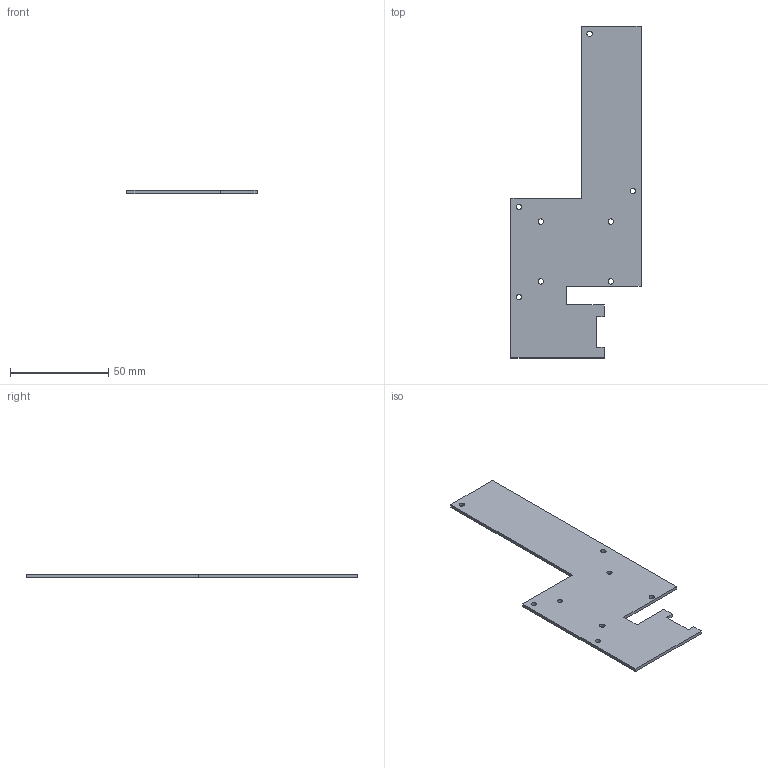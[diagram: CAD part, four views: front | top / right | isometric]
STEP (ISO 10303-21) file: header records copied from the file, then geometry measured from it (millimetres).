
FILE_DESCRIPTION(('Open CASCADE Model'),'2;1');
FILE_NAME('Open CASCADE Shape Model','2026-09-22T07:23:23',('Author'),( 'Open CASCADE'),'Open CASCADE STEP processor 7.9','Open CASCADE 7.9' ,'Unknown');
FILE_SCHEMA(('AUTOMOTIVE_DESIGN { 1 0 10303 214 1 1 1 1 }'));
Length unit declared in the file: millimetre
Products named in the file (1): Open CASCADE STEP translator 7.9 3
Bounding box: 66.2 x 169 x 1.6 mm (x, y, z)
Volume: 11285.3 mm3; surface area: 15042.4 mm2
Topology: 1 solids, 1 shells, 24 faces, 66 edges, 44 vertices
Faces by surface type: plane 16, cylinder 8
Full cylindrical faces by diameter (mm): 2.7 x8
Entity records: 1690 total; most frequent: CARTESIAN_POINT 315, DIRECTION 256, LINE 166, VECTOR 166, ORIENTED_EDGE 132, PCURVE 132, DEFINITIONAL_REPRESENTATION 132, EDGE_CURVE 66
